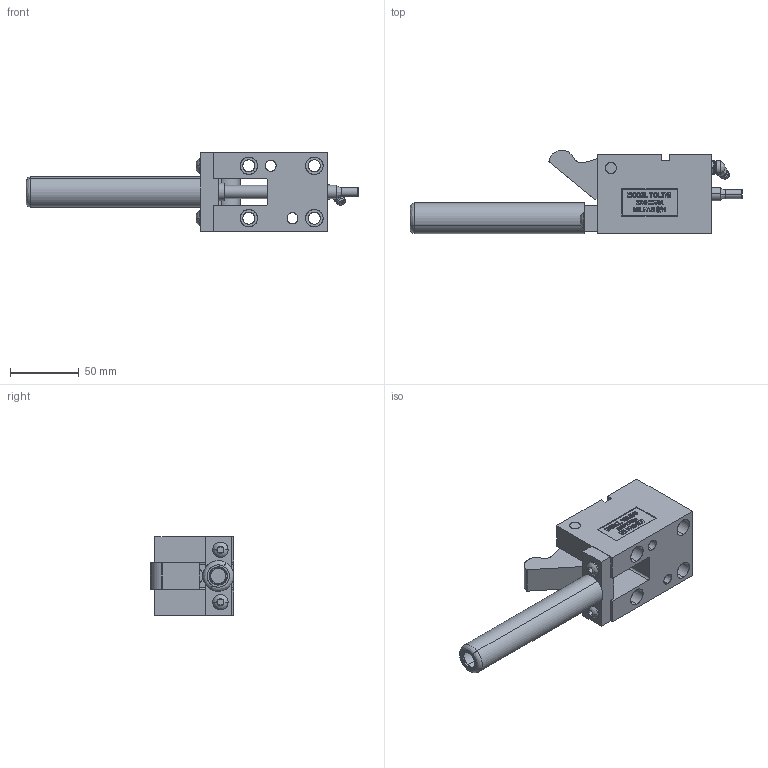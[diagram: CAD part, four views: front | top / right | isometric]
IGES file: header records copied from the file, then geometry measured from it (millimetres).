
Start section: SolidWorks IGES file using analytic representation for surfaces
Global section: file name: Y:\JIM'S INCH CAM UNITS\TOL37545\OPEN\TOL37545-O.IGS; native system: SolidWorks 2006 by SolidWorks Corporation; preprocessor: SolidWorks 2006 by SolidWorks Corporation; author: Jim; date: 090211.142428; units: inch
Bounding box: 241.3 x 60.44 x 57.15 mm (x, y, z)
Surface area: 73986.6 mm2 (no closed solid volume)
Topology: 0 solids, 0 shells, 588 faces, 7159 edges, 7155 vertices
Faces by surface type: bspline 464, revolution 124
